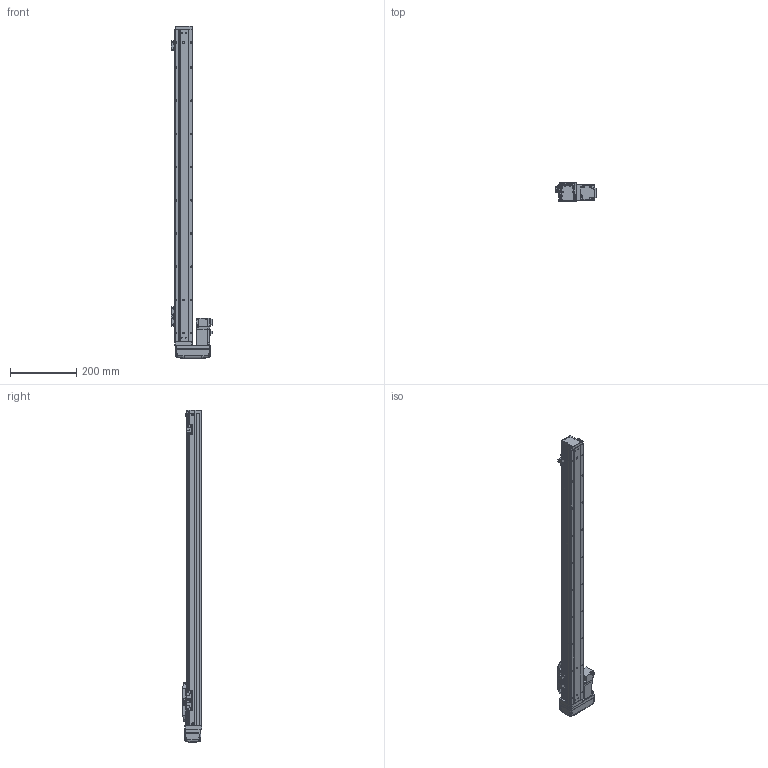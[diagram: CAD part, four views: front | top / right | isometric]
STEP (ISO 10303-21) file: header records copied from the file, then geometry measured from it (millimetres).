
FILE_DESCRIPTION (( 'STEP AP203' ), '1' );
FILE_NAME ('GTH5-800-BR-M10-C4.step', '2022-09-23T00:52:20', ( '微软用户' ), ( '微软中国' ), 'SwSTEP 2.0', 'SolidWorks 2020', '' );
FILE_SCHEMA (( 'CONFIG_CONTROL_DESIGN' ));
Length unit declared in the file: millimetre
Products named in the file (19): GTH50-003; GTH50-006; GTH50-022-1; GTH50-013; GTH50-004; HG-KR13; GTH50-023; GBT 70.3-M3℅6; GTH50-027-1_BTHA50-027-2; GBT 70.1-M3℅6; BTH-M3X5X6; GTH50-026; GBT96.1-2002 3×0.8; GTH50-001_800; GTH5-800-BR-M10-C4; GTH50-024; GBT 70.1-M4×16; GBT 70.1-M2.5×6; GTH50-028
Assembly tree (57 placements, depth 2):
  GTH5-800-BR-M10-C4
    GTH50-006
    GTH50-004
    GBT 70.3-M3℅6  x4
    BTH-M3X5X6  x8
    GTH50-001_800
    GBT 70.1-M4×16  x8
    GTH50-003
    GTH50-013
    GTH50-023  x3
    GBT 70.1-M3℅6  x12
    GBT96.1-2002 3×0.8  x6
    GTH50-024  x3
    GBT 70.1-M2.5×6  x2
    GTH50-028  x2
    GTH50-022-1
    HG-KR13
    GTH50-027-1_BTHA50-027-2
    GTH50-026
Bounding box: 123.6 x 60 x 1000 mm (x, y, z)
Volume: 2225928 mm3; surface area: 353194.4 mm2
Topology: 59 solids, 59 shells, 2168 faces, 5040 edges, 3092 vertices
Faces by surface type: plane 1142, cylinder 597, cone 219, torus 162, bspline 40, sphere 8
Entity records: 40456 total; most frequent: CARTESIAN_POINT 7995, DIRECTION 6241, ORIENTED_EDGE 5994, EDGE_CURVE 2997, AXIS2_PLACEMENT_3D 2176, VERTEX_POINT 1894, VECTOR 1889, LINE 1889
